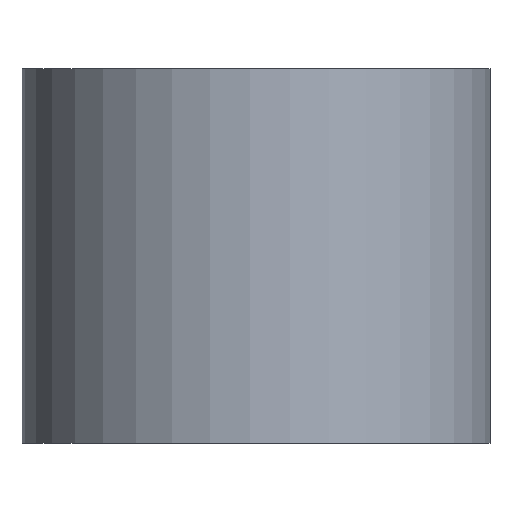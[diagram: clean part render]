
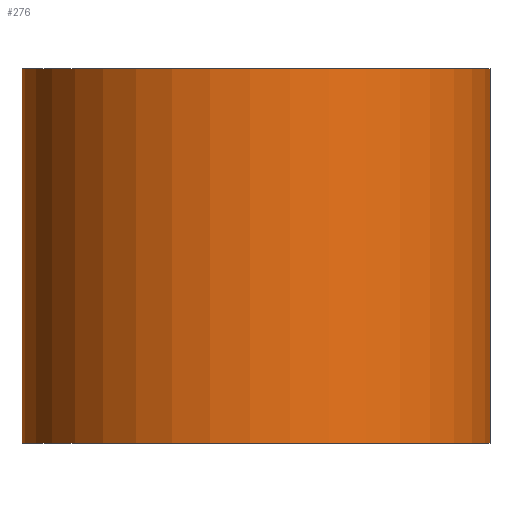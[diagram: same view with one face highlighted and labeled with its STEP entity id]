
A CAD part, front view. The second image highlights one B-rep face of the part: STEP entity #276.
In plain terms, the highlighted cylindrical face has radius 10 mm (diameter 20 mm), a partial arc.
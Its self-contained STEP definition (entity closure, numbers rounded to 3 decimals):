
#1 = ORIENTED_EDGE ( 'NONE', *, *, #113, .T. ) ;
#3 = DIRECTION ( 'NONE',  ( 0., 0., 1. ) ) ;
#5 = CARTESIAN_POINT ( 'NONE',  ( 9.987, -0.5, 16. ) ) ;
#13 = CIRCLE ( 'NONE', #234, 10. ) ;
#16 = EDGE_CURVE ( 'NONE', #177, #236, #157, .T. ) ;
#17 = ORIENTED_EDGE ( 'NONE', *, *, #101, .T. ) ;
#24 = CYLINDRICAL_SURFACE ( 'NONE', #261, 10. ) ;
#42 = CARTESIAN_POINT ( 'NONE',  ( -10., 0., 16. ) ) ;
#62 = DIRECTION ( 'NONE',  ( 1., 0., 0. ) ) ;
#65 = VECTOR ( 'NONE', #175, 1000. ) ;
#66 = ORIENTED_EDGE ( 'NONE', *, *, #16, .T. ) ;
#68 = CARTESIAN_POINT ( 'NONE',  ( 0., 0., 16. ) ) ;
#73 = LINE ( 'NONE', #5, #65 ) ;
#83 = DIRECTION ( 'NONE',  ( 1., 0., 0. ) ) ;
#86 = EDGE_CURVE ( 'NONE', #122, #233, #13, .T. ) ;
#87 = CARTESIAN_POINT ( 'NONE',  ( 0., 0., 16. ) ) ;
#99 = ORIENTED_EDGE ( 'NONE', *, *, #86, .F. ) ;
#101 = EDGE_CURVE ( 'NONE', #236, #233, #73, .T. ) ;
#105 = CARTESIAN_POINT ( 'NONE',  ( -10., 0., 16. ) ) ;
#113 = EDGE_CURVE ( 'NONE', #122, #177, #129, .T. ) ;
#122 = VERTEX_POINT ( 'NONE', #42 ) ;
#129 = LINE ( 'NONE', #105, #144 ) ;
#132 = DIRECTION ( 'NONE',  ( 0., 0., -1. ) ) ;
#144 = VECTOR ( 'NONE', #241, 1000. ) ;
#157 = CIRCLE ( 'NONE', #221, 10. ) ;
#175 = DIRECTION ( 'NONE',  ( 0., 0., 1. ) ) ;
#177 = VERTEX_POINT ( 'NONE', #251 ) ;
#197 = EDGE_LOOP ( 'NONE', ( #99, #1, #66, #17 ) ) ;
#206 = CARTESIAN_POINT ( 'NONE',  ( 9.987, -0.5, 16. ) ) ;
#217 = CARTESIAN_POINT ( 'NONE',  ( 0., 0., 0. ) ) ;
#219 = DIRECTION ( 'NONE',  ( 0., 0., 1. ) ) ;
#221 = AXIS2_PLACEMENT_3D ( 'NONE', #217, #3, #83 ) ;
#225 = DIRECTION ( 'NONE',  ( -1., 0., 0. ) ) ;
#226 = CARTESIAN_POINT ( 'NONE',  ( 9.987, -0.5, 0. ) ) ;
#233 = VERTEX_POINT ( 'NONE', #206 ) ;
#234 = AXIS2_PLACEMENT_3D ( 'NONE', #87, #219, #62 ) ;
#236 = VERTEX_POINT ( 'NONE', #226 ) ;
#241 = DIRECTION ( 'NONE',  ( 0., 0., -1. ) ) ;
#250 = FACE_OUTER_BOUND ( 'NONE', #197, .T. ) ;
#251 = CARTESIAN_POINT ( 'NONE',  ( -10., 0., 0. ) ) ;
#261 = AXIS2_PLACEMENT_3D ( 'NONE', #68, #132, #225 ) ;
#276 = ADVANCED_FACE ( 'NONE', ( #250 ), #24, .T. ) ;
